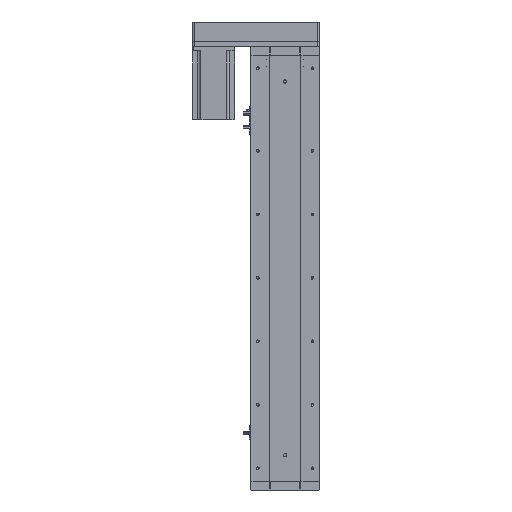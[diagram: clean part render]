
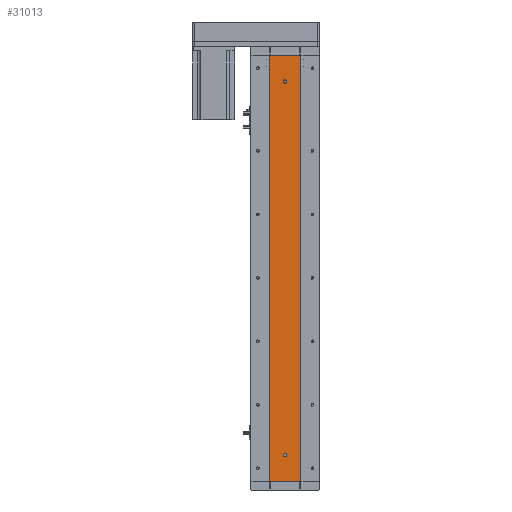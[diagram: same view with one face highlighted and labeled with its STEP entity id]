
A CAD part, left-side view. The second image highlights one B-rep face of the part: STEP entity #31013.
In plain terms, the highlighted planar face has unit normal (-1, 0, 0).
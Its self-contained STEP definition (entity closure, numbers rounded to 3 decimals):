
#2353 = VECTOR ( 'NONE', #9510, 1000. ) ;
#2450 = DIRECTION ( 'NONE',  ( 0., 0., -1. ) ) ;
#2595 = CARTESIAN_POINT ( 'NONE',  ( -24.994, -29.785, 806. ) ) ;
#3048 = VECTOR ( 'NONE', #2450, 1000. ) ;
#3624 = CARTESIAN_POINT ( 'NONE',  ( -24.994, 29.785, 0. ) ) ;
#3892 = AXIS2_PLACEMENT_3D ( 'NONE', #42017, #20605, #45655 ) ;
#4254 = EDGE_CURVE ( 'NONE', #19601, #43187, #29653, .T. ) ;
#4392 = ORIENTED_EDGE ( 'NONE', *, *, #4254, .F. ) ;
#5259 = CARTESIAN_POINT ( 'NONE',  ( -24.994, 29.785, 806. ) ) ;
#5640 = CARTESIAN_POINT ( 'NONE',  ( -24.994, 0., 53. ) ) ;
#5719 = CARTESIAN_POINT ( 'NONE',  ( -24.994, 29.785, 806. ) ) ;
#5899 = CARTESIAN_POINT ( 'NONE',  ( -24.994, 0., 756. ) ) ;
#6529 = ORIENTED_EDGE ( 'NONE', *, *, #33405, .T. ) ;
#6546 = CARTESIAN_POINT ( 'NONE',  ( -24.994, -29.785, 0. ) ) ;
#6642 = VERTEX_POINT ( 'NONE', #5640 ) ;
#6648 = LINE ( 'NONE', #3624, #15125 ) ;
#7289 = FACE_BOUND ( 'NONE', #25448, .T. ) ;
#7492 = EDGE_CURVE ( 'NONE', #6642, #18562, #19423, .T. ) ;
#7681 = AXIS2_PLACEMENT_3D ( 'NONE', #40697, #19274, #44331 ) ;
#8375 = VERTEX_POINT ( 'NONE', #27900 ) ;
#8775 = VERTEX_POINT ( 'NONE', #38490 ) ;
#9302 = DIRECTION ( 'NONE',  ( 0., 0., -1. ) ) ;
#9490 = DIRECTION ( 'NONE',  ( 0., 0., 1. ) ) ;
#9510 = DIRECTION ( 'NONE',  ( 0., 0., -1. ) ) ;
#10985 = ORIENTED_EDGE ( 'NONE', *, *, #40247, .F. ) ;
#12645 = EDGE_CURVE ( 'NONE', #43165, #43187, #6648, .T. ) ;
#15125 = VECTOR ( 'NONE', #39654, 1000. ) ;
#15893 = CARTESIAN_POINT ( 'NONE',  ( -24.994, 0., 50. ) ) ;
#16479 = PLANE ( 'NONE',  #23715 ) ;
#17196 = VERTEX_POINT ( 'NONE', #5259 ) ;
#17322 = CARTESIAN_POINT ( 'NONE',  ( -24.994, 29.785, 0. ) ) ;
#18476 = CARTESIAN_POINT ( 'NONE',  ( -24.994, -29.785, 806. ) ) ;
#18562 = VERTEX_POINT ( 'NONE', #36914 ) ;
#19274 = DIRECTION ( 'NONE',  ( -1., 0., 0. ) ) ;
#19423 = CIRCLE ( 'NONE', #7681, 3. ) ;
#19562 = DIRECTION ( 'NONE',  ( 0., 0., 1. ) ) ;
#19601 = VERTEX_POINT ( 'NONE', #18476 ) ;
#20605 = DIRECTION ( 'NONE',  ( -1., 0., 0. ) ) ;
#21217 = ORIENTED_EDGE ( 'NONE', *, *, #40944, .F. ) ;
#21413 = CIRCLE ( 'NONE', #3892, 3. ) ;
#22067 = AXIS2_PLACEMENT_3D ( 'NONE', #15893, #40979, #19562 ) ;
#22274 = AXIS2_PLACEMENT_3D ( 'NONE', #5899, #31227, #9490 ) ;
#23242 = VECTOR ( 'NONE', #24889, 1000. ) ;
#23715 = AXIS2_PLACEMENT_3D ( 'NONE', #5719, #31058, #9302 ) ;
#23821 = EDGE_LOOP ( 'NONE', ( #30616, #4392, #34302, #6529 ) ) ;
#24475 = EDGE_LOOP ( 'NONE', ( #46065, #21217 ) ) ;
#24889 = DIRECTION ( 'NONE',  ( 0., -1., 0. ) ) ;
#25448 = EDGE_LOOP ( 'NONE', ( #31748, #10985 ) ) ;
#25657 = EDGE_CURVE ( 'NONE', #8375, #8775, #30626, .T. ) ;
#27900 = CARTESIAN_POINT ( 'NONE',  ( -24.994, 0., 759. ) ) ;
#27982 = CIRCLE ( 'NONE', #22067, 3. ) ;
#29653 = LINE ( 'NONE', #2595, #3048 ) ;
#30616 = ORIENTED_EDGE ( 'NONE', *, *, #12645, .T. ) ;
#30626 = CIRCLE ( 'NONE', #22274, 3. ) ;
#30698 = EDGE_CURVE ( 'NONE', #17196, #19601, #32844, .T. ) ;
#31013 = ADVANCED_FACE ( 'NONE', ( #45562, #7289, #36092 ), #16479, .F. ) ;
#31058 = DIRECTION ( 'NONE',  ( 1., 0., 0. ) ) ;
#31173 = LINE ( 'NONE', #45376, #2353 ) ;
#31227 = DIRECTION ( 'NONE',  ( -1., 0., 0. ) ) ;
#31748 = ORIENTED_EDGE ( 'NONE', *, *, #7492, .F. ) ;
#32844 = LINE ( 'NONE', #39110, #23242 ) ;
#33405 = EDGE_CURVE ( 'NONE', #17196, #43165, #31173, .T. ) ;
#34302 = ORIENTED_EDGE ( 'NONE', *, *, #30698, .F. ) ;
#36092 = FACE_OUTER_BOUND ( 'NONE', #23821, .T. ) ;
#36914 = CARTESIAN_POINT ( 'NONE',  ( -24.994, 0., 47. ) ) ;
#38490 = CARTESIAN_POINT ( 'NONE',  ( -24.994, 0., 753. ) ) ;
#39110 = CARTESIAN_POINT ( 'NONE',  ( -24.994, 29.785, 806. ) ) ;
#39654 = DIRECTION ( 'NONE',  ( 0., -1., 0. ) ) ;
#40247 = EDGE_CURVE ( 'NONE', #18562, #6642, #27982, .T. ) ;
#40697 = CARTESIAN_POINT ( 'NONE',  ( -24.994, 0., 50. ) ) ;
#40944 = EDGE_CURVE ( 'NONE', #8775, #8375, #21413, .T. ) ;
#40979 = DIRECTION ( 'NONE',  ( -1., 0., 0. ) ) ;
#42017 = CARTESIAN_POINT ( 'NONE',  ( -24.994, 0., 756. ) ) ;
#43165 = VERTEX_POINT ( 'NONE', #17322 ) ;
#43187 = VERTEX_POINT ( 'NONE', #6546 ) ;
#44331 = DIRECTION ( 'NONE',  ( 0., 0., 1. ) ) ;
#45376 = CARTESIAN_POINT ( 'NONE',  ( -24.994, 29.785, 806. ) ) ;
#45562 = FACE_BOUND ( 'NONE', #24475, .T. ) ;
#45655 = DIRECTION ( 'NONE',  ( 0., 0., 1. ) ) ;
#46065 = ORIENTED_EDGE ( 'NONE', *, *, #25657, .F. ) ;
